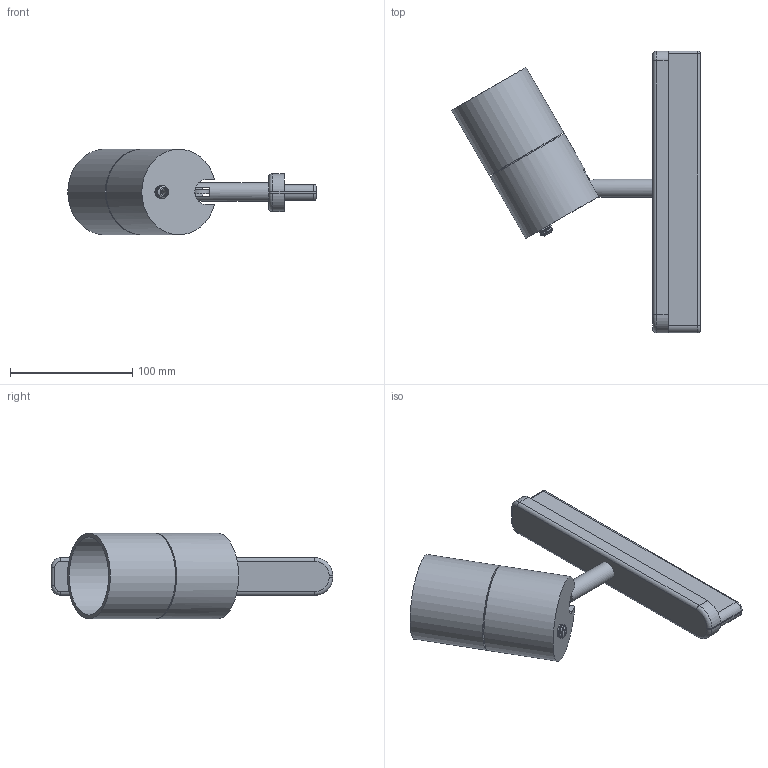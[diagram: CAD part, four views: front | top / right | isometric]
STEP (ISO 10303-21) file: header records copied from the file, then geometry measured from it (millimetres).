
FILE_DESCRIPTION(/* description */ (''),/* implementation_level */ '2;1');
FILE_NAME(/* name */ 'C:/Users/elena/OneDrive/Allegati di posta elettronica/Desktop/Corallo/Pubblico/Corallo eurotrack.step',/* time_stamp */ '2020-06-08T12:59:33+02:00',/* author */ (''),/* organization */ (''),/* preprocessor_version */ 'ST-DEVELOPER v18.1',/* originating_system */ 'Autodesk Translation Framework v9.3.0.1241',/* authorisation */ '');
FILE_SCHEMA (('AUTOMOTIVE_DESIGN { 1 0 10303 214 3 1 1 }'));
Length unit declared in the file: millimetre
Products named in the file (1): Corallo eurotrack eli
Bounding box: 202.92 x 230 x 70 mm (x, y, z)
Volume: 467236.8 mm3; surface area: 91567.7 mm2
Topology: 7 solids, 7 shells, 141 faces, 314 edges, 198 vertices
Faces by surface type: plane 69, cylinder 54, torus 10, cone 6, sphere 2
Full cylindrical faces by diameter (mm): 2.2 x1, 3 x4, 4 x3, 5 x3, 8.6 x1, 10 x1, 10.127 x1, 15 x2, 50.6 x1, 56 x1, 61 x1, 64 x1, 65 x2, 70 x2
Entity records: 4162 total; most frequent: CARTESIAN_POINT 820, DIRECTION 734, ORIENTED_EDGE 628, EDGE_CURVE 314, AXIS2_PLACEMENT_3D 291, VERTEX_POINT 198, EDGE_LOOP 168, LINE 152
